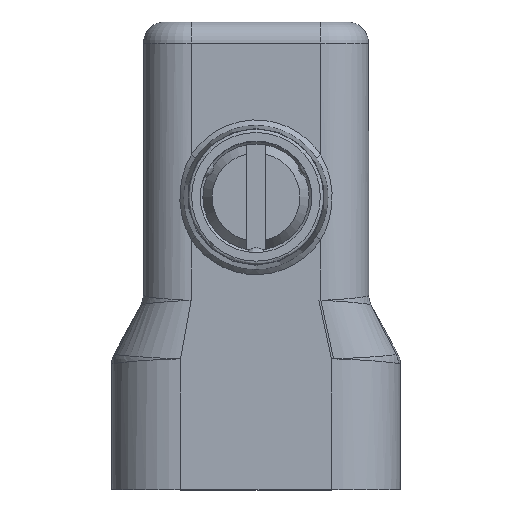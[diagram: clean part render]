
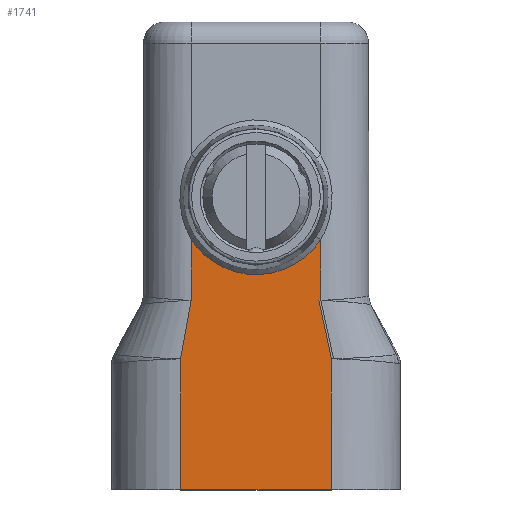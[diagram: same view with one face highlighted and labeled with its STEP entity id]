
A CAD part, top view. The second image highlights one B-rep face of the part: STEP entity #1741.
In plain terms, the highlighted planar face has unit normal (0, 0, 1).
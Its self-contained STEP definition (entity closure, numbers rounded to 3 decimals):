
#90=(
BOUNDED_CURVE()
B_SPLINE_CURVE(2,(#6263,#6264,#6265),.UNSPECIFIED.,.F.,.F.)
B_SPLINE_CURVE_WITH_KNOTS((3,3),(0.,1.),.UNSPECIFIED.)
CURVE()
GEOMETRIC_REPRESENTATION_ITEM()
RATIONAL_B_SPLINE_CURVE((1.039,1.039,1.039))
REPRESENTATION_ITEM('')
);
#1305=PLANE('',#4222);
#1352=LINE('',#5932,#1484);
#1360=LINE('',#6243,#1492);
#1379=LINE('',#7263,#1511);
#1387=LINE('',#7289,#1519);
#1391=LINE('',#7414,#1523);
#1398=LINE('',#7937,#1530);
#1401=LINE('',#7948,#1533);
#1484=VECTOR('',#4435,1.);
#1492=VECTOR('',#4481,1.);
#1511=VECTOR('',#4632,1.);
#1519=VECTOR('',#4658,1.);
#1523=VECTOR('',#4672,1.);
#1530=VECTOR('',#4707,1.);
#1533=VECTOR('',#4712,1.);
#1741=ADVANCED_FACE('',(#1896),#1305,.T.);
#1896=FACE_OUTER_BOUND('',#2060,.T.);
#2060=EDGE_LOOP('',(#2827,#2828,#2829,#2830,#2831,#2832,#2833,#2834,#2835));
#2827=ORIENTED_EDGE('',*,*,#3708,.F.);
#2828=ORIENTED_EDGE('',*,*,#3381,.T.);
#2829=ORIENTED_EDGE('',*,*,#3704,.T.);
#2830=ORIENTED_EDGE('',*,*,#3487,.T.);
#2831=ORIENTED_EDGE('',*,*,#3650,.T.);
#2832=ORIENTED_EDGE('',*,*,#3637,.F.);
#2833=ORIENTED_EDGE('',*,*,#3662,.F.);
#2834=ORIENTED_EDGE('',*,*,#3529,.F.);
#2835=ORIENTED_EDGE('',*,*,#3532,.F.);
#3041=VERTEX_POINT('',#5001);
#3042=VERTEX_POINT('',#5008);
#3139=VERTEX_POINT('',#5931);
#3140=VERTEX_POINT('',#5933);
#3175=VERTEX_POINT('',#6244);
#3176=VERTEX_POINT('',#6245);
#3178=VERTEX_POINT('',#6262);
#3224=VERTEX_POINT('',#7262);
#3225=VERTEX_POINT('',#7264);
#3381=EDGE_CURVE('',#3042,#3041,#3829,.T.);
#3487=EDGE_CURVE('',#3140,#3139,#1352,.T.);
#3529=EDGE_CURVE('',#3175,#3176,#1360,.T.);
#3532=EDGE_CURVE('',#3178,#3175,#90,.T.);
#3637=EDGE_CURVE('',#3224,#3225,#1379,.T.);
#3650=EDGE_CURVE('',#3139,#3225,#1387,.T.);
#3662=EDGE_CURVE('',#3176,#3224,#1391,.T.);
#3704=EDGE_CURVE('',#3041,#3140,#1398,.T.);
#3708=EDGE_CURVE('',#3042,#3178,#1401,.T.);
#3829=B_SPLINE_CURVE_WITH_KNOTS('',3,(#5002,#5003,#5004,#5005,#5006,#5007),
 .UNSPECIFIED.,.F.,.F.,(4,2,4),(0.,0.5,1.),.UNSPECIFIED.);
#4222=AXIS2_PLACEMENT_3D('',#8228,#4749,#4750);
#4435=DIRECTION('',(-0.179,-0.984,0.));
#4481=DIRECTION('',(0.211,-0.978,0.));
#4632=DIRECTION('',(-1.,0.,0.));
#4658=DIRECTION('',(0.,-1.,0.));
#4672=DIRECTION('',(0.,-1.,0.));
#4707=DIRECTION('',(0.,-1.,0.));
#4712=DIRECTION('',(0.,-1.,0.));
#4749=DIRECTION('',(0.,0.,1.));
#4750=DIRECTION('',(-1.,0.,0.));
#5001=CARTESIAN_POINT('',(-6.101,-19.249,24.46));
#5002=CARTESIAN_POINT('',(6.099,-19.248,24.462));
#5003=CARTESIAN_POINT('',(4.785,-21.264,24.462));
#5004=CARTESIAN_POINT('',(2.42,-22.549,24.461));
#5005=CARTESIAN_POINT('',(-2.421,-22.549,24.46));
#5006=CARTESIAN_POINT('',(-4.786,-21.266,24.46));
#5007=CARTESIAN_POINT('',(-6.101,-19.249,24.46));
#5008=CARTESIAN_POINT('',(6.099,-19.248,24.462));
#5931=CARTESIAN_POINT('',(-7.101,-30.462,24.459));
#5932=CARTESIAN_POINT('',(-6.604,-27.729,24.459));
#5933=CARTESIAN_POINT('',(-6.101,-24.962,24.46));
#6243=CARTESIAN_POINT('',(6.51,-27.729,24.462));
#6244=CARTESIAN_POINT('',(5.913,-24.962,24.462));
#6245=CARTESIAN_POINT('',(7.099,-30.462,24.462));
#6262=CARTESIAN_POINT('',(6.099,-24.962,24.462));
#6263=CARTESIAN_POINT('',(6.099,-24.962,24.462));
#6264=CARTESIAN_POINT('',(6.006,-24.962,24.462));
#6265=CARTESIAN_POINT('',(5.913,-24.962,24.462));
#7262=CARTESIAN_POINT('',(7.099,-42.762,24.462));
#7263=CARTESIAN_POINT('',(7.099,-42.762,24.462));
#7264=CARTESIAN_POINT('',(-7.101,-42.762,24.459));
#7289=CARTESIAN_POINT('',(-7.101,-30.462,24.459));
#7414=CARTESIAN_POINT('',(7.099,-30.462,24.462));
#7937=CARTESIAN_POINT('',(-6.101,1.238,24.46));
#7948=CARTESIAN_POINT('',(6.099,1.238,24.462));
#8228=CARTESIAN_POINT('',(7.099,-30.462,24.462));
